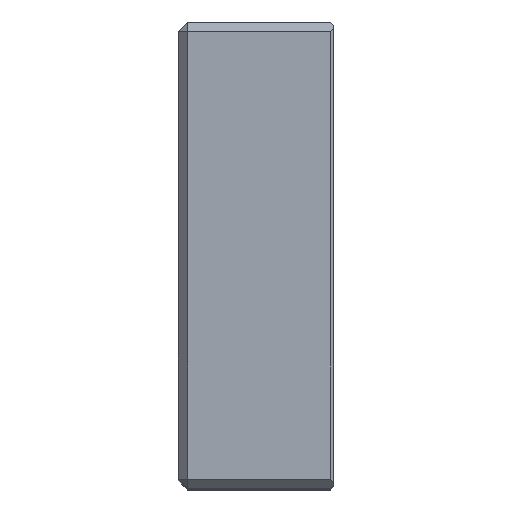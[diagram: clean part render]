
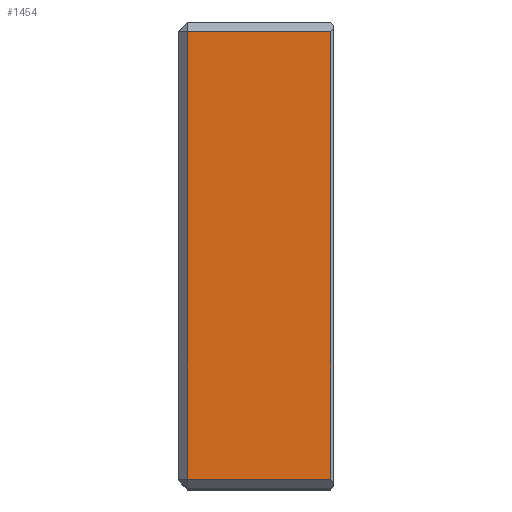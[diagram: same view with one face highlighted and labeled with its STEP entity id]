
A CAD part, top view. The second image highlights one B-rep face of the part: STEP entity #1454.
In plain terms, the highlighted planar face has unit normal (0, 0, 1).
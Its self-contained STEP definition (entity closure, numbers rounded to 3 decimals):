
#145=VERTEX_POINT(' ',#146);
#146=CARTESIAN_POINT('',(3.,72.,0.));
#149=VERTEX_POINT(' ',#150);
#150=CARTESIAN_POINT('',(3.,-72.,0.));
#175=VERTEX_POINT(' ',#176);
#176=CARTESIAN_POINT('',(49.,72.,0.));
#179=VERTEX_POINT(' ',#180);
#180=CARTESIAN_POINT('',(49.,-72.,0.));
#482=LINE('',#483,#484);
#483=CARTESIAN_POINT('',(3.,-91.971,0.));
#484=VECTOR('',#485,1.);
#485=DIRECTION('',(0.,1.,0.));
#486=EDGE_CURVE(' ',#149,#145,#482,.T.);
#602=LINE('',#603,#604);
#603=CARTESIAN_POINT('',(-13.971,72.,0.));
#604=VECTOR('',#605,1.);
#605=DIRECTION('',(1.,0.,0.));
#606=EDGE_CURVE(' ',#145,#175,#602,.T.);
#607=LINE('',#608,#609);
#608=CARTESIAN_POINT('',(49.,77.657,0.));
#609=VECTOR('',#610,1.);
#610=DIRECTION('',(0.,-1.,0.));
#611=EDGE_CURVE(' ',#175,#179,#607,.T.);
#612=LINE('',#613,#614);
#613=CARTESIAN_POINT('',(66.971,-72.,0.));
#614=VECTOR('',#615,1.);
#615=DIRECTION('',(-1.,0.,0.));
#616=EDGE_CURVE(' ',#179,#149,#612,.T.);
#1443=ORIENTED_EDGE('',*,*,#611,.F.);
#1444=ORIENTED_EDGE('',*,*,#606,.F.);
#1445=ORIENTED_EDGE('',*,*,#486,.F.);
#1446=ORIENTED_EDGE('',*,*,#616,.F.);
#1447=EDGE_LOOP('',(#1443,#1444,#1445,#1446));
#1448=FACE_OUTER_BOUND('',#1447,.T.);
#1449=PLANE('',#1450);
#1450=AXIS2_PLACEMENT_3D('',#1451,#1452,#1453);
#1451=CARTESIAN_POINT('',(0.,-75.,0.));
#1452=DIRECTION('',(0.,0.,1.));
#1453=DIRECTION('',(0.,1.,0.));
#1454=ADVANCED_FACE('',(#1448),#1449,.T.);
